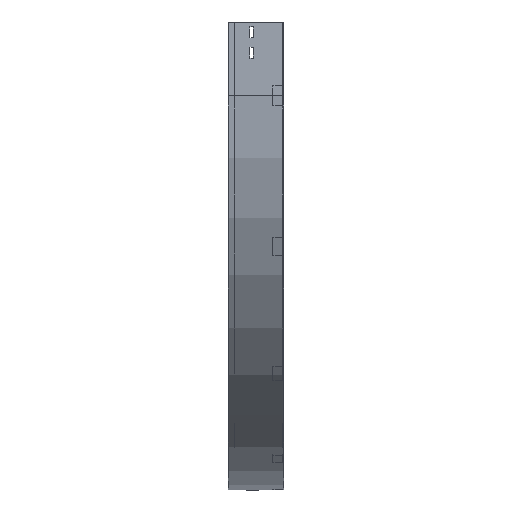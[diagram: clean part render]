
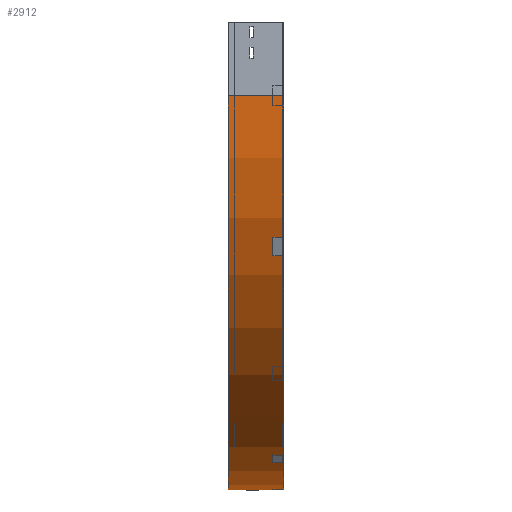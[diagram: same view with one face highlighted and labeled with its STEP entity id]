
A CAD part, left-side view. The second image highlights one B-rep face of the part: STEP entity #2912.
In plain terms, the highlighted cylindrical face has radius 800 mm (diameter 1600 mm), a partial arc.
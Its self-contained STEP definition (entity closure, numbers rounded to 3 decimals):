
#9 = VERTEX_POINT ( 'NONE', #414 ) ;
#164 = VERTEX_POINT ( 'NONE', #2869 ) ;
#185 = DIRECTION ( 'NONE',  ( -1., 0., 0. ) ) ;
#253 = ORIENTED_EDGE ( 'NONE', *, *, #1615, .F. ) ;
#414 = CARTESIAN_POINT ( 'NONE',  ( 800., 0., -950. ) ) ;
#559 = DIRECTION ( 'NONE',  ( 0., -1., 0. ) ) ;
#672 = LINE ( 'NONE', #1867, #3188 ) ;
#735 = DIRECTION ( 'NONE',  ( 0., -1., 0. ) ) ;
#778 = EDGE_LOOP ( 'NONE', ( #253, #3727, #2934, #3029 ) ) ;
#1188 = CIRCLE ( 'NONE', #3329, 800. ) ;
#1189 = AXIS2_PLACEMENT_3D ( 'NONE', #1660, #2859, #185 ) ;
#1410 = CARTESIAN_POINT ( 'NONE',  ( 0., 112.5, -150. ) ) ;
#1615 = EDGE_CURVE ( 'NONE', #2079, #9, #1188, .T. ) ;
#1660 = CARTESIAN_POINT ( 'NONE',  ( 800., 112.5, -150. ) ) ;
#1673 = LINE ( 'NONE', #2274, #2504 ) ;
#1867 = CARTESIAN_POINT ( 'NONE',  ( 0., 0., -150. ) ) ;
#2046 = CARTESIAN_POINT ( 'NONE',  ( 800., 0., -150. ) ) ;
#2079 = VERTEX_POINT ( 'NONE', #3708 ) ;
#2095 = DIRECTION ( 'NONE',  ( 0., 0., -1. ) ) ;
#2112 = DIRECTION ( 'NONE',  ( 0., -1., 0. ) ) ;
#2274 = CARTESIAN_POINT ( 'NONE',  ( 800., 0., -950. ) ) ;
#2314 = AXIS2_PLACEMENT_3D ( 'NONE', #2046, #559, #2095 ) ;
#2452 = EDGE_CURVE ( 'NONE', #164, #9, #1673, .T. ) ;
#2504 = VECTOR ( 'NONE', #735, 1000. ) ;
#2566 = CIRCLE ( 'NONE', #1189, 800. ) ;
#2609 = FACE_OUTER_BOUND ( 'NONE', #778, .T. ) ;
#2684 = DIRECTION ( 'NONE',  ( 0., -1., 0. ) ) ;
#2728 = EDGE_CURVE ( 'NONE', #3311, #2079, #672, .T. ) ;
#2859 = DIRECTION ( 'NONE',  ( 0., -1., 0. ) ) ;
#2869 = CARTESIAN_POINT ( 'NONE',  ( 800., 112.5, -950. ) ) ;
#2912 = ADVANCED_FACE ( 'NONE', ( #2609 ), #3504, .T. ) ;
#2934 = ORIENTED_EDGE ( 'NONE', *, *, #3548, .T. ) ;
#3029 = ORIENTED_EDGE ( 'NONE', *, *, #2452, .T. ) ;
#3188 = VECTOR ( 'NONE', #2112, 1000. ) ;
#3278 = CARTESIAN_POINT ( 'NONE',  ( 800., 0., -150. ) ) ;
#3311 = VERTEX_POINT ( 'NONE', #1410 ) ;
#3329 = AXIS2_PLACEMENT_3D ( 'NONE', #3278, #2684, #3579 ) ;
#3504 = CYLINDRICAL_SURFACE ( 'NONE', #2314, 800. ) ;
#3548 = EDGE_CURVE ( 'NONE', #3311, #164, #2566, .T. ) ;
#3579 = DIRECTION ( 'NONE',  ( -1., 0., 0. ) ) ;
#3708 = CARTESIAN_POINT ( 'NONE',  ( 0., 0., -150. ) ) ;
#3727 = ORIENTED_EDGE ( 'NONE', *, *, #2728, .F. ) ;
